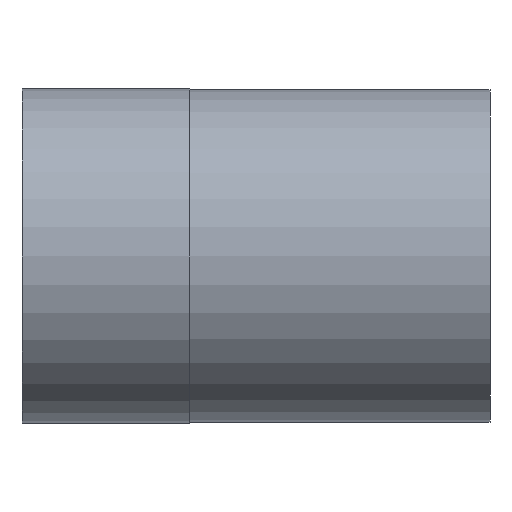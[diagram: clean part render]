
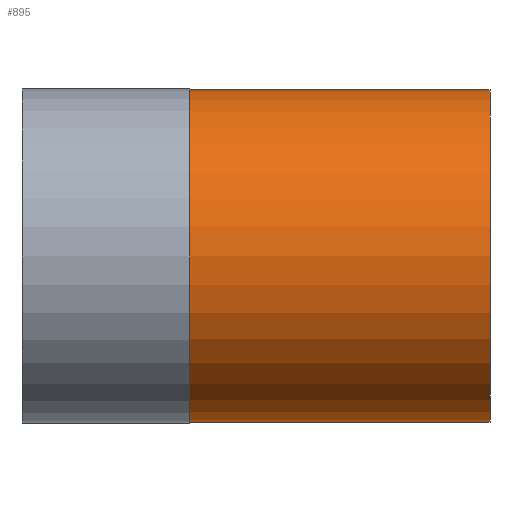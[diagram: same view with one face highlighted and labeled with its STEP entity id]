
A CAD part, left-side view. The second image highlights one B-rep face of the part: STEP entity #895.
In plain terms, the highlighted cylindrical face has radius 4.98 mm (diameter 9.96 mm), a partial arc.
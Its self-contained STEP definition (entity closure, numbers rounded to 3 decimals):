
#17 = DIRECTION ( 'NONE',  ( 0., -1., 0. ) ) ;
#18 = VECTOR ( 'NONE', #17, 1000. ) ;
#19 = CARTESIAN_POINT ( 'NONE',  ( 0., -20.255, -4.98 ) ) ;
#20 = LINE ( 'NONE', #19, #18 ) ;
#31 = CARTESIAN_POINT ( 'NONE',  ( 0., 0., -4.98 ) ) ;
#53 = DIRECTION ( 'NONE',  ( 0., -1., 0. ) ) ;
#54 = VECTOR ( 'NONE', #53, 1000. ) ;
#55 = CARTESIAN_POINT ( 'NONE',  ( 0., -20.255, 4.98 ) ) ;
#60 = LINE ( 'NONE', #55, #54 ) ;
#69 = CARTESIAN_POINT ( 'NONE',  ( 0., 0., 4.98 ) ) ;
#70 = CARTESIAN_POINT ( 'NONE',  ( 0., 8.98, 4.98 ) ) ;
#88 = CARTESIAN_POINT ( 'NONE',  ( 0., 8.98, -4.98 ) ) ;
#154 = DIRECTION ( 'NONE',  ( 0., 0., -1. ) ) ;
#155 = DIRECTION ( 'NONE',  ( 0., -1., 0. ) ) ;
#156 = CARTESIAN_POINT ( 'NONE',  ( 0., -20.255, 0. ) ) ;
#157 = AXIS2_PLACEMENT_3D ( 'NONE', #156, #155, #154 ) ;
#159 = CYLINDRICAL_SURFACE ( 'NONE', #157, 4.98 ) ;
#160 = FACE_OUTER_BOUND ( 'NONE', #896, .T. ) ;
#161 = DIRECTION ( 'NONE',  ( 0., 0., -1. ) ) ;
#162 = DIRECTION ( 'NONE',  ( 0., -1., 0. ) ) ;
#163 = CARTESIAN_POINT ( 'NONE',  ( 0., 8.98, 0. ) ) ;
#164 = AXIS2_PLACEMENT_3D ( 'NONE', #163, #162, #161 ) ;
#165 = CIRCLE ( 'NONE', #164, 4.98 ) ;
#805 = VERTEX_POINT ( 'NONE', #70 ) ;
#810 = VERTEX_POINT ( 'NONE', #69 ) ;
#816 = EDGE_CURVE ( 'NONE', #805, #810, #60, .T. ) ;
#848 = VERTEX_POINT ( 'NONE', #88 ) ;
#857 = VERTEX_POINT ( 'NONE', #31 ) ;
#863 = EDGE_CURVE ( 'NONE', #848, #857, #20, .T. ) ;
#876 = ORIENTED_EDGE ( 'NONE', *, *, #881, .F. ) ;
#881 = EDGE_CURVE ( 'NONE', #810, #857, #1292, .T. ) ;
#883 = ORIENTED_EDGE ( 'NONE', *, *, #891, .T. ) ;
#885 = ORIENTED_EDGE ( 'NONE', *, *, #863, .T. ) ;
#891 = EDGE_CURVE ( 'NONE', #805, #848, #165, .T. ) ;
#892 = ORIENTED_EDGE ( 'NONE', *, *, #816, .F. ) ;
#895 = ADVANCED_FACE ( 'NONE', ( #160 ), #159, .T. ) ;
#896 = EDGE_LOOP ( 'NONE', ( #892, #883, #885, #876 ) ) ;
#1289 = DIRECTION ( 'NONE',  ( 0., 0., -1. ) ) ;
#1290 = DIRECTION ( 'NONE',  ( 0., -1., 0. ) ) ;
#1291 = AXIS2_PLACEMENT_3D ( 'NONE', #1298, #1290, #1289 ) ;
#1292 = CIRCLE ( 'NONE', #1291, 4.98 ) ;
#1298 = CARTESIAN_POINT ( 'NONE',  ( 0., 0., 0. ) ) ;
